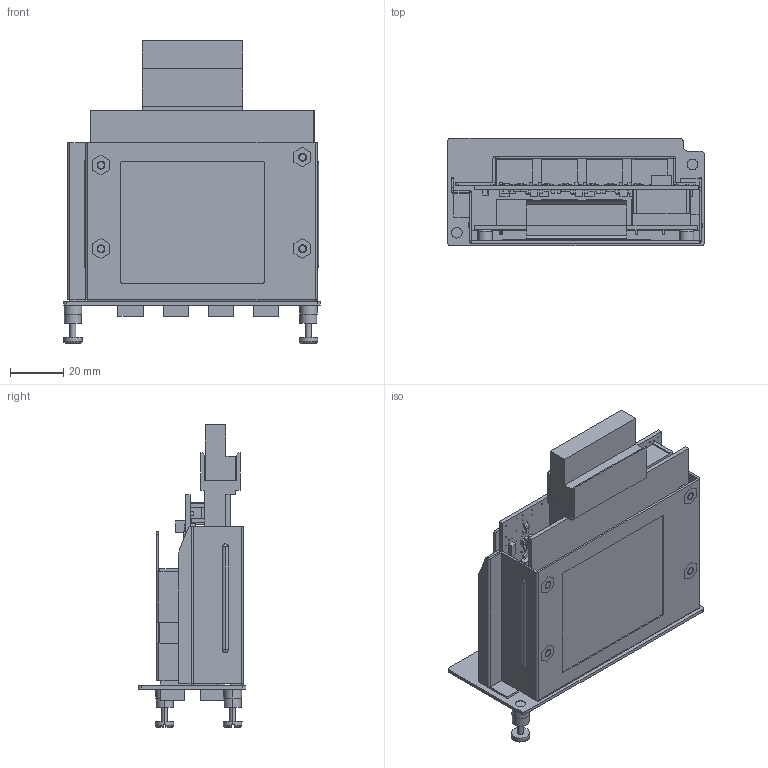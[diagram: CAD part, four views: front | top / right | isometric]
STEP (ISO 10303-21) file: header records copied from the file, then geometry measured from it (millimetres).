
FILE_DESCRIPTION((''),'2;1');
FILE_NAME('PM-7200-8MTRJ_MODULE-ASSY_ASM','2010-11-05T',('Chialu_Chang'),(''),'PRO/ENGINEER BY PARAMETRIC TECHNOLOGY CORPORATION, 2004440','PRO/ENGINEER BY PARAMETRIC TECHNOLOGY CORPORATION, 2004440','');
FILE_SCHEMA(('CONFIG_CONTROL_DESIGN'));
Products named in the file (28): PT-7200_8MTRJ-MODULE-CASE; PM-7200-8MTRJ_MODULE-PANEL; HANDLE_SCREW_M3_THIN-1; PM-7200-MTRJ-BOARD; MTRJ_AVAGO-AFBR-5903AZ; ERIN_2X13-124044; ERNI_923816; ERNI_064784; ERNI_064784_923816_ASM; PM-7200-8MTRJ_DOWN_V09_0202PM6_ASM; PM-7200-MTRJ-MODULE-PCB_ASM; PM-7200-8MTRJ_UP-BOARD; ERIN_2X13-063209; ASM0001; C2220; SP-CAP-D4; HOLEC236D126-6V; R0603; L1210; C1808; C0805; C0603; SMC_2X13M_SMD; ASM0001_ASM; PM-7200-8MTRJ_UP-BOARD_ASM; M3-BSO-L5; PM-7200_8MTRJ-HEATSINK; PM-7200-8MTRJ_MODULE-ASSY_ASM
Assembly tree (189 placements, depth 4):
  PM-7200-8MTRJ_MODULE-ASSY_ASM
    PT-7200_8MTRJ-MODULE-CASE
    PM-7200-8MTRJ_MODULE-PANEL
    HANDLE_SCREW_M3_THIN-1  x2
    PM-7200-MTRJ-MODULE-PCB_ASM
      PM-7200-MTRJ-BOARD
      MTRJ_AVAGO-AFBR-5903AZ  x4
      ERIN_2X13-124044
      ERNI_064784_923816_ASM
        ERNI_923816
        ERNI_064784
      PM-7200-8MTRJ_DOWN_V09_0202PM6_ASM
    PM-7200-8MTRJ_UP-BOARD_ASM
      PM-7200-8MTRJ_UP-BOARD
      MTRJ_AVAGO-AFBR-5903AZ  x4
      ERIN_2X13-063209
      ASM0001_ASM
        ASM0001
        C2220
        SP-CAP-D4
        HOLEC236D126-6V  x4
        R0603  x72
        L1210  x8
        C1808  x3
        C0805  x38
        C0603  x32
        SMC_2X13M_SMD
    M3-BSO-L5  x4
    PM-7200_8MTRJ-HEATSINK
Bounding box: 96.8 x 40.7 x 114 mm (x, y, z)
Volume: 112122.1 mm3; surface area: 111207.5 mm2
Topology: 184 solids, 188 shells, 3922 faces, 9234 edges, 5988 vertices
Faces by surface type: plane 2743, cylinder 1135, cone 32, bspline 8, torus 4
Entity records: 82550 total; most frequent: DIRECTION 14496, CARTESIAN_POINT 14085, ORIENTED_EDGE 13164, EDGE_CURVE 6584, AXIS2_PLACEMENT_3D 4919, VECTOR 4658, LINE 4658, VERTEX_POINT 4226
